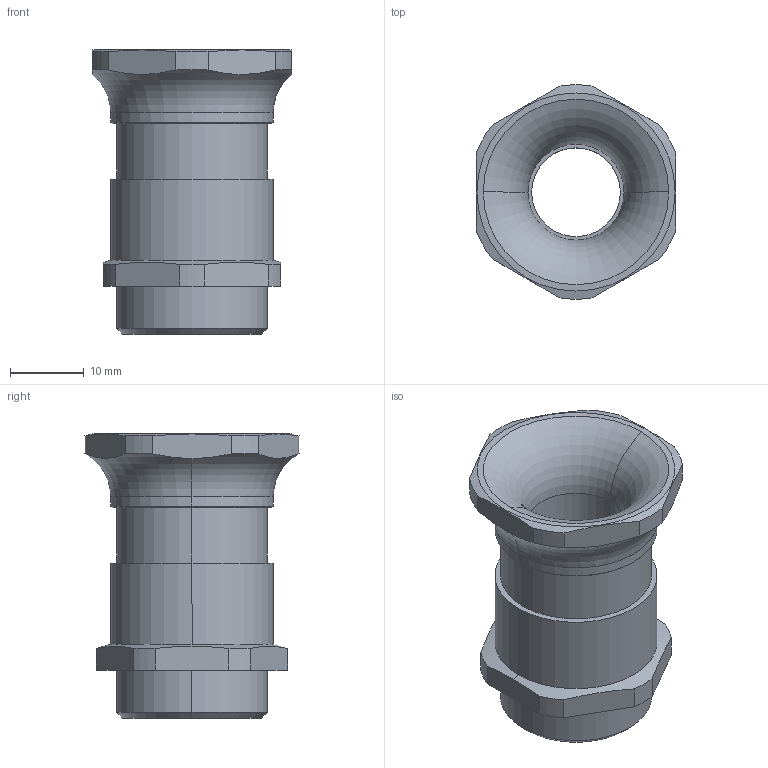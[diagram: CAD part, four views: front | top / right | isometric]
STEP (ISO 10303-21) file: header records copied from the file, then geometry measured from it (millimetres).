
FILE_DESCRIPTION (( 'STEP AP203' ), '1' );
FILE_NAME ('27.713.STEP', '2006-10-23T12:44:14', ( ' ' ), ( '' ), 'SwSTEP 2.0', 'SolidWorks 2005278', '' );
FILE_SCHEMA (( 'CONFIG_CONTROL_DESIGN' ));
Length unit declared in the file: millimetre
Products named in the file (1): 27.713
Bounding box: 27 x 28.96 x 38.5 mm (x, y, z)
Volume: 9690.8 mm3; surface area: 5248.6 mm2
Topology: 1 solids, 1 shells, 96 faces, 246 edges, 160 vertices
Faces by surface type: plane 56, cylinder 26, cone 10, torus 4
Entity records: 3059 total; most frequent: CARTESIAN_POINT 629, ORIENTED_EDGE 492, DIRECTION 482, EDGE_CURVE 246, AXIS2_PLACEMENT_3D 163, VERTEX_POINT 160, VECTOR 156, LINE 156
